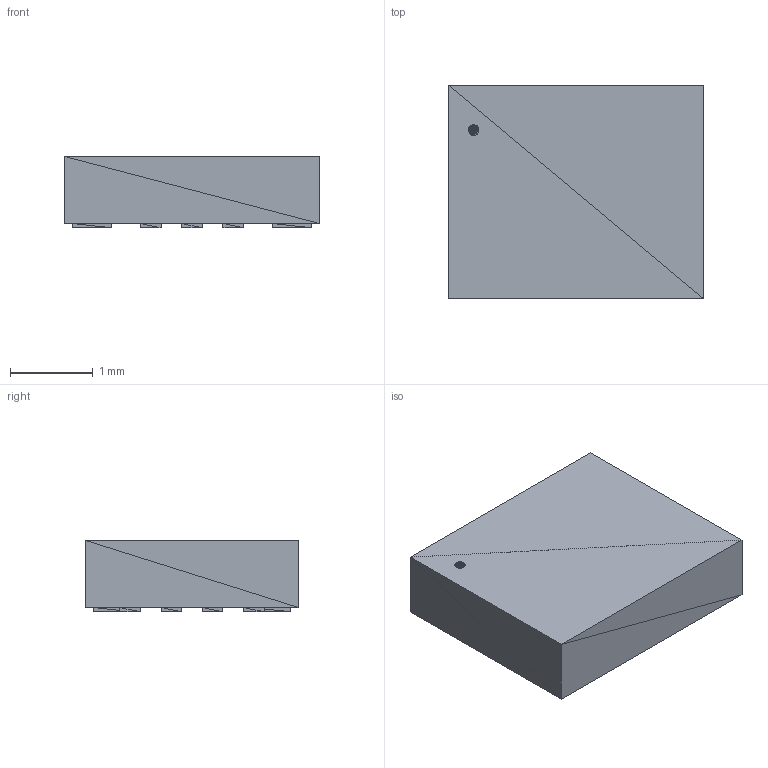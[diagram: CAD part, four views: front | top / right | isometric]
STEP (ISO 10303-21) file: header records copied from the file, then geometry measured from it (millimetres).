
FILE_DESCRIPTION((' Model'),'2;1');
FILE_NAME(' Shape Model','2026-09-15T19:42:03',(''),( ''),' ','','Unknown');
FILE_SCHEMA(('AUTOMOTIVE_DESIGN { 1 0 10303 214 1 1 1 1 }'));
Length unit declared in the file: millimetre
Products named in the file (17):  STEP translator 7.5 1;  STEP translator 7.5 1.1;  STEP translator 7.5 1.2;  STEP translator 7.5 1.3;  STEP translator 7.5 1.4;  STEP translator 7.5 1.5;  STEP translator 7.5 1.6;  STEP translator 7.5 1.7;  STEP translator 7.5 1.8;  STEP translator 7.5 1.9;  STEP translator 7.5 1.10;  STEP translator 7.5 1.11;  STEP translator 7.5 1.12;  STEP translator 7.5 1.13;  STEP translator 7.5 1.14;  STEP translator 7.5 1.15;  STEP translator 7.5 1.16
Assembly tree (16 placements, depth 2):
   STEP translator 7.5 1
     STEP translator 7.5 1.1
     STEP translator 7.5 1.2
     STEP translator 7.5 1.3
     STEP translator 7.5 1.4
     STEP translator 7.5 1.5
     STEP translator 7.5 1.6
     STEP translator 7.5 1.7
     STEP translator 7.5 1.8
     STEP translator 7.5 1.9
     STEP translator 7.5 1.10
     STEP translator 7.5 1.11
     STEP translator 7.5 1.12
     STEP translator 7.5 1.13
     STEP translator 7.5 1.14
     STEP translator 7.5 1.15
     STEP translator 7.5 1.16
Bounding box: 3.1 x 2.59 x 0.87 mm (x, y, z)
Surface area: 29.7 mm2 (no closed solid volume)
Topology: 0 solids, 16 shells, 320 faces, 480 edges, 192 vertices
Faces by surface type: plane 320
Entity records: 12400 total; most frequent: CARTESIAN_POINT 2449, DIRECTION 1634, ORIENTED_EDGE 960, LINE 960, VECTOR 960, PCURVE 960, DEFINITIONAL_REPRESENTATION 960, EDGE_CURVE 480
